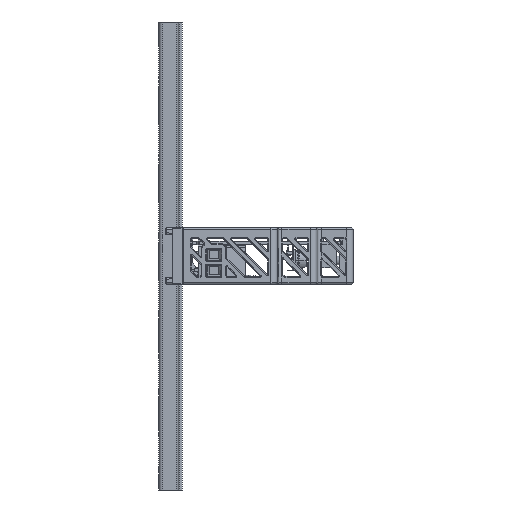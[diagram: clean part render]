
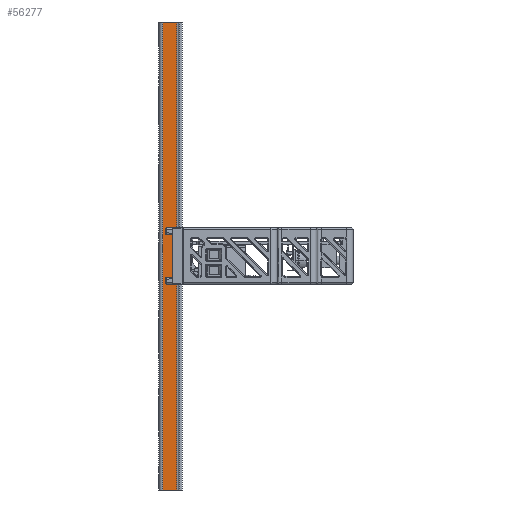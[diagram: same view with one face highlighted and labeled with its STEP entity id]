
A CAD part, front view. The second image highlights one B-rep face of the part: STEP entity #56277.
In plain terms, the highlighted planar face has unit normal (0, -1, 0) as drawn and (1, 0, 0) by its records, which use the part's own axes.
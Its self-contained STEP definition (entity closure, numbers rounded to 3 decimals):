
#54982=DIRECTION('',(0.,0.,-1.));
#54983=VECTOR('',#54982,150.);
#54984=CARTESIAN_POINT('',(13.5,1.2,75.));
#54985=LINE('',#54984,#54983);
#55048=DIRECTION('',(0.,-1.,0.));
#55049=VECTOR('',#55048,4.5);
#55050=CARTESIAN_POINT('',(13.5,5.7,75.));
#55051=LINE('',#55050,#55049);
#55270=DIRECTION('',(0.,0.,1.));
#55271=VECTOR('',#55270,150.);
#55272=CARTESIAN_POINT('',(13.5,5.7,-75.));
#55273=LINE('',#55272,#55271);
#55277=DIRECTION('',(0.,-1.,0.));
#55278=VECTOR('',#55277,4.5);
#55279=CARTESIAN_POINT('',(13.5,5.7,-75.));
#55280=LINE('',#55279,#55278);
#55524=CARTESIAN_POINT('',(13.5,1.2,-75.));
#55525=VERTEX_POINT('',#55524);
#55526=CARTESIAN_POINT('',(13.5,5.7,-75.));
#55527=VERTEX_POINT('',#55526);
#55666=CARTESIAN_POINT('',(13.5,5.7,75.));
#55667=VERTEX_POINT('',#55666);
#55668=CARTESIAN_POINT('',(13.5,1.2,75.));
#55669=VERTEX_POINT('',#55668);
#56266=CARTESIAN_POINT('',(13.5,0.,-75.));
#56267=DIRECTION('',(1.,0.,0.));
#56268=DIRECTION('',(0.,1.,0.));
#56269=AXIS2_PLACEMENT_3D('',#56266,#56267,#56268);
#56270=PLANE('',#56269);
#56271=ORIENTED_EDGE('',*,*,#56082,.F.);
#56272=ORIENTED_EDGE('',*,*,#56109,.F.);
#56273=ORIENTED_EDGE('',*,*,#56260,.F.);
#56274=ORIENTED_EDGE('',*,*,#56053,.T.);
#56275=EDGE_LOOP('',(#56271,#56272,#56273,#56274));
#56276=FACE_OUTER_BOUND('',#56275,.F.);
#56053=EDGE_CURVE('',#55527,#55525,#55280,.T.);
#56082=EDGE_CURVE('',#55669,#55525,#54985,.T.);
#56109=EDGE_CURVE('',#55667,#55669,#55051,.T.);
#56260=EDGE_CURVE('',#55527,#55667,#55273,.T.);
#56277=ADVANCED_FACE('',(#56276),#56270,.T.);
